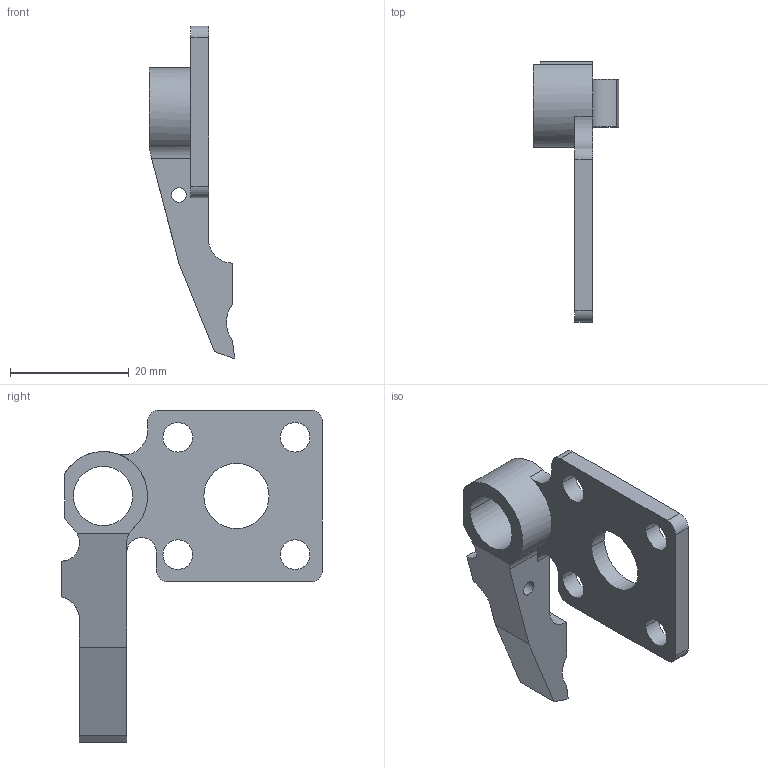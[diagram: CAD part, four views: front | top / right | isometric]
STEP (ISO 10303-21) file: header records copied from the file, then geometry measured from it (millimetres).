
FILE_DESCRIPTION (( 'STEP AP203' ), '1' );
FILE_NAME ('_____01.stp_Défaut_sldprt.STEP', '2024-11-30T15:38:56', ( '' ), ( '' ), 'SwSTEP 2.0', 'SolidWorks 2023', '' );
FILE_SCHEMA (( 'CONFIG_CONTROL_DESIGN' ));
Length unit declared in the file: millimetre
Products named in the file (1): _____01.stp_Défaut_sldprt
Bounding box: 14.4 x 44 x 56 mm (x, y, z)
Volume: 4952.5 mm3; surface area: 4039.6 mm2
Topology: 1 solids, 1 shells, 48 faces, 138 edges, 92 vertices
Faces by surface type: cylinder 29, plane 19
Entity records: 1748 total; most frequent: CARTESIAN_POINT 331, DIRECTION 289, ORIENTED_EDGE 276, EDGE_CURVE 138, AXIS2_PLACEMENT_3D 106, VERTEX_POINT 92, VECTOR 77, LINE 77
